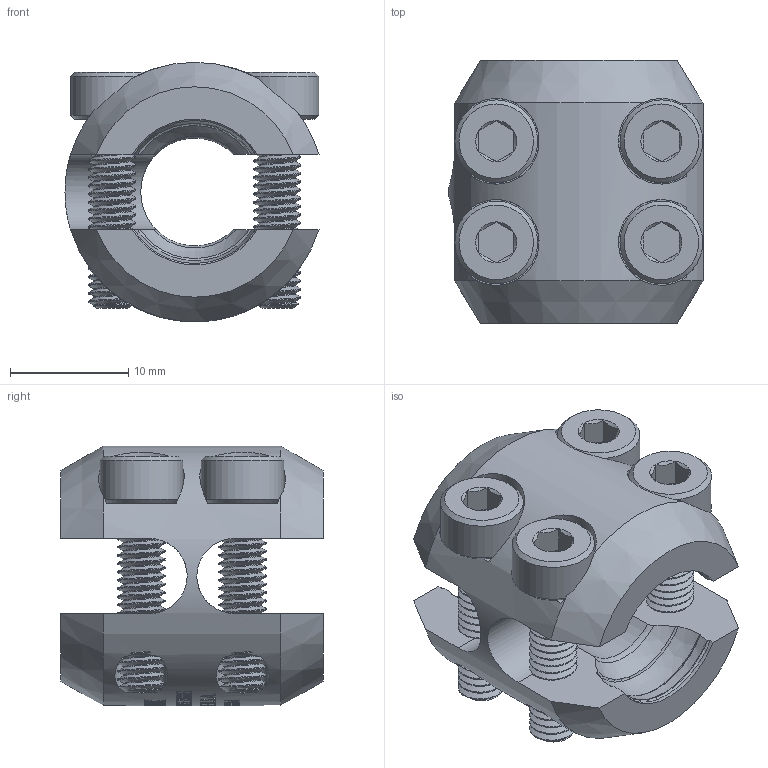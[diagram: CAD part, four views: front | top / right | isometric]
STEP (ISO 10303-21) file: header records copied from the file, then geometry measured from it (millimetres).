
FILE_DESCRIPTION(/* description */ ('JRPL KNUCKLE'),/* implementation_level */ '2;1');
FILE_NAME(/* name */ 'C:\Users\Shayne Riley\Documents\Vault\AD&D\Design Files\Pop-Link\JRPL Series Assemblies\JRPL-KNK.stp',/* time_stamp */ '2020-11-18T09:15:44-05:00',/* author */ ('Shayne Riley'),/* organization */ (''),/* preprocessor_version */ 'ST-DEVELOPER v18.1',/* originating_system */ 'Autodesk Inventor 2021',/* authorisation */ '');
FILE_SCHEMA (('AUTOMOTIVE_DESIGN { 1 0 10303 214 3 1 1 }'));
Length unit declared in the file: inch
Products named in the file (3): JRPL-KNK; 60264; 60262
Assembly tree (5 placements, depth 2):
  JRPL-KNK
    60264
    60262  x4
Bounding box: 21.49 x 22.23 x 21.96 mm (x, y, z)
Volume: 4950.7 mm3; surface area: 4762.2 mm2
Topology: 5 solids, 5 shells, 1037 faces, 2836 edges, 1874 vertices
Faces by surface type: plane 493, cylinder 289, bspline 181, cone 46, torus 16, sphere 12
Full cylindrical faces by diameter (mm): 3.091 x88, 3.242 x4, 4 x88, 4.25 x4, 7 x4
Entity records: 34623 total; most frequent: CARTESIAN_POINT 14317, ORIENTED_EDGE 4562, DIRECTION 3638, EDGE_CURVE 2281, VERTEX_POINT 1517, AXIS2_PLACEMENT_3D 1230, LINE 1178, VECTOR 1178
